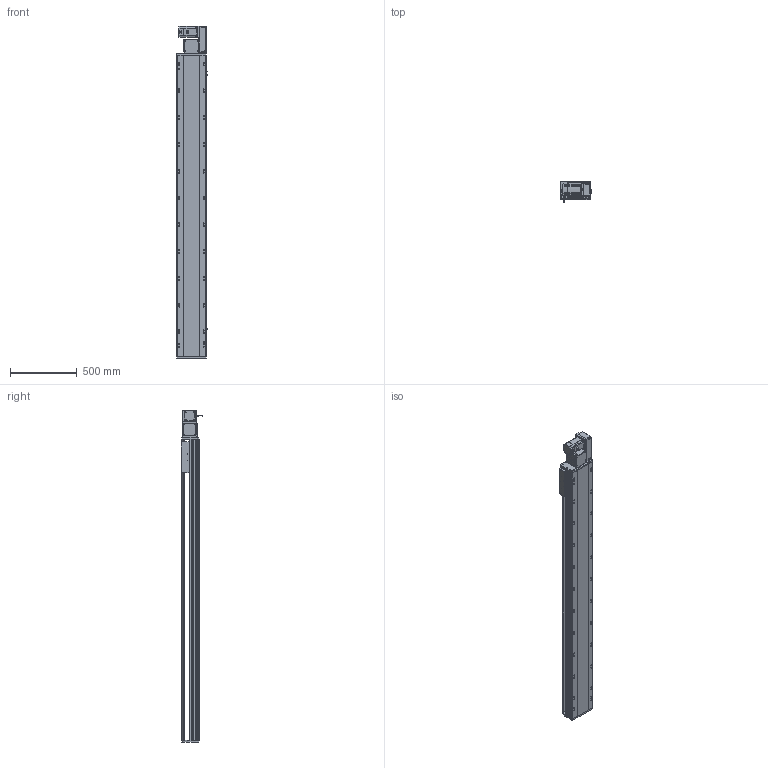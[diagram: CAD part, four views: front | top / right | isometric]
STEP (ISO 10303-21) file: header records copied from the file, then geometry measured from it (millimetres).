
FILE_DESCRIPTION (( 'STEP AP214' ), '1' );
FILE_NAME ('RTB22S-XX-1900-R-M75-C4.STEP', '2025-12-12T07:24:36', ( '' ), ( '' ), 'SwSTEP 2.0', 'SolidWorks 2018', '' );
FILE_SCHEMA (( 'AUTOMOTIVE_DESIGN' ));
Length unit declared in the file: millimetre
Products named in the file (14): RTB22S-GY-007奻裔^RTB22S-XX-XX-R-M75-C4; OMRON EE-SX672 传感器^RTB22S-XX-XX-R-M75-C4; RTB22S-GY-014--々湍釱^RTB22S-R-々湍釱蚾饜_RTB22S-XX-XX-R-M75-C4; RTB22S-R-々湍釱蚾饜^RTB22S-XX-XX-R-M75-C4; RTB22S-GY-018P^RTB22S-R-々湍釱蚾饜_RTB22S-XX-XX-R-M75-C4; RTB22S-L-011菁釱^RTB22S-XX-XX-R-M75-C4; RTB22S-GY-001耜裔^RTB22S-XX-XX-R-M75-C4; RTB22S-XX-1900-R-M75-C4; RTB22S-GY-005P^RTB22S-R-々湍釱蚾饜_RTB22S-XX-XX-R-M75-C4; 750W萇儂^RTB22S-XX-XX-R-M75-C4; RTB22S-GY-017P^RTB22S-R-々湍釱蚾饜_RTB22S-XX-XX-R-M75-C4; RTH22-GY-013外置感应片^RTB22S-XX-XX-R-M75-C4; RTB22S-L-004賑釱^RTB22S-XX-XX-R-M75-C4; RTB22S-GY-008-M75--萇儂啣^RTB22S-R-々湍釱蚾饜_RTB22S-XX-XX-R-M75-C4
Assembly tree (16 placements, depth 3):
  RTB22S-XX-1900-R-M75-C4
    RTB22S-L-011菁釱^RTB22S-XX-XX-R-M75-C4
    RTB22S-GY-001耜裔^RTB22S-XX-XX-R-M75-C4
    750W萇儂^RTB22S-XX-XX-R-M75-C4
    RTB22S-GY-007奻裔^RTB22S-XX-XX-R-M75-C4
    RTB22S-L-004賑釱^RTB22S-XX-XX-R-M75-C4
    RTH22-GY-013外置感应片^RTB22S-XX-XX-R-M75-C4
    OMRON EE-SX672 传感器^RTB22S-XX-XX-R-M75-C4  x3
    RTB22S-R-々湍釱蚾饜^RTB22S-XX-XX-R-M75-C4
      RTB22S-GY-014--々湍釱^RTB22S-R-々湍釱蚾饜_RTB22S-XX-XX-R-M75-C4
      RTB22S-GY-017P^RTB22S-R-々湍釱蚾饜_RTB22S-XX-XX-R-M75-C4  x2
      RTB22S-GY-005P^RTB22S-R-々湍釱蚾饜_RTB22S-XX-XX-R-M75-C4
      RTB22S-GY-008-M75--萇儂啣^RTB22S-R-々湍釱蚾饜_RTB22S-XX-XX-R-M75-C4
      RTB22S-GY-018P^RTB22S-R-々湍釱蚾饜_RTB22S-XX-XX-R-M75-C4
Bounding box: 238.5 x 162.7 x 2479 mm (x, y, z)
Volume: 31772775.5 mm3; surface area: 3265253 mm2
Topology: 15 solids, 15 shells, 2055 faces, 5586 edges, 3572 vertices
Faces by surface type: plane 923, cylinder 670, bspline 296, cone 154, sphere 8, torus 4
Entity records: 55400 total; most frequent: CARTESIAN_POINT 15764, ORIENTED_EDGE 7928, DIRECTION 7698, EDGE_CURVE 3964, AXIS2_PLACEMENT_3D 2742, VERTEX_POINT 2576, LINE 2214, VECTOR 2214
